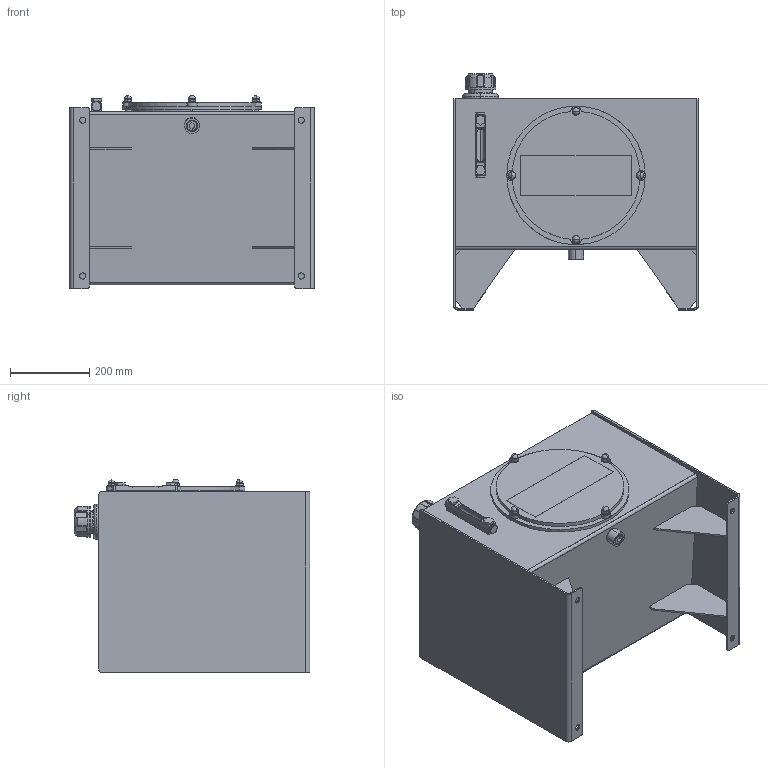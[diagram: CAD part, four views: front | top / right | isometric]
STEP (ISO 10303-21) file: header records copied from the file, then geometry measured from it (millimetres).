
FILE_DESCRIPTION (( 'STEP AP214' ), '1' );
FILE_NAME ('RDIN020-AFA.STEP', '2021-10-18T13:42:24', ( 'Windows User' ), ( '' ), 'SwSTEP 2.0', 'SolidWorks 2020', '' );
FILE_SCHEMA (( 'AUTOMOTIVE_DESIGN' ));
Length unit declared in the file: inch
Products named in the file (23): RDIN020-AFA; REC-M350K; Weld Riser; BHS8100-15350; RDIN020-AFA-GUSSET1; RHJ-PLUG-200; RDIN020-AFA-LEND; RDIN020-AFA-TOP; RHJ-PLUG-016; REC-M350C-4; RDIN020-AFA-REND; 8162-008-2_4534K45; FB-F008_FB-F-008; RDIN020-AFA-GUSSET2; FB-C-H_FB-H008W; NAC100-15-Z; PLLG-05T; FB-S-W; RDIN020-AFA-BODY_RJIC020-BODY; S12; QSTSBUR00080008; FB-H008W; WFZM010
Assembly tree (30 placements, depth 3):
  RDIN020-AFA
    RDIN020-AFA-BODY_RJIC020-BODY
    RDIN020-AFA-LEND
    RDIN020-AFA-REND
    RDIN020-AFA-TOP
    Weld Riser
    FB-H008W
      FB-F008_FB-F-008
      FB-S-W
      FB-C-H_FB-H008W
    BHS8100-15350  x4
    PLLG-05T
    REC-M350K
      REC-M350C-4
      WFZM010  x4
    S12
    8162-008-2_4534K45
    RDIN020-AFA-GUSSET1  x2
    RDIN020-AFA-GUSSET2  x2
    QSTSBUR00080008  x4
  RHJ-PLUG-200
  RHJ-PLUG-016
  NAC100-15-Z
Bounding box: 619.11 x 596.52 x 487.92 mm (x, y, z)
Volume: 7307146.3 mm3; surface area: 3539311.6 mm2
Topology: 35 solids, 35 shells, 1062 faces, 2484 edges, 1490 vertices
Faces by surface type: plane 377, cylinder 359, torus 102, bspline 88, cone 88, sphere 48
Entity records: 33372 total; most frequent: CARTESIAN_POINT 9382, DIRECTION 4906, ORIENTED_EDGE 4524, EDGE_CURVE 2262, AXIS2_PLACEMENT_3D 1964, VERTEX_POINT 1360, EDGE_LOOP 1092, CIRCLE 1048
